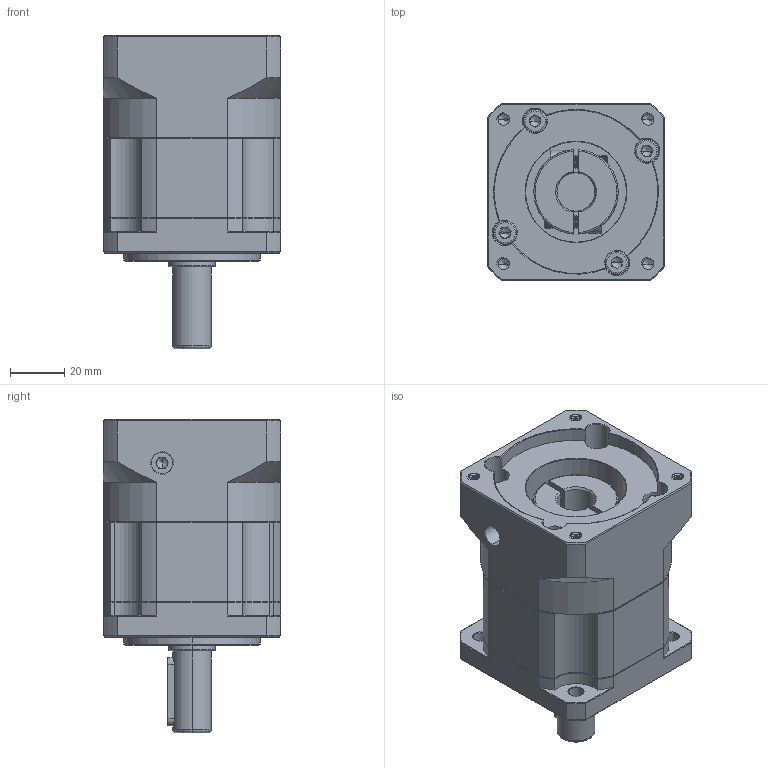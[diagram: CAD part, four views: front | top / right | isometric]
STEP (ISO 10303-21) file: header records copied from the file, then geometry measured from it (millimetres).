
FILE_DESCRIPTION (( 'STEP AP214' ), '1' );
FILE_NAME ('ZB060-D14-L1-P2-14-60-75-M5.step', '2023-08-16T06:59:51', ( '' ), ( '' ), 'SwSTEP 2.0', 'SolidWorks 2016', '' );
FILE_SCHEMA (( 'AUTOMOTIVE_DESIGN' ));
Length unit declared in the file: millimetre
Products named in the file (1): ZB060-D14-L1-P2-14-60-75-M5
Bounding box: 65 x 65 x 115 mm (x, y, z)
Volume: 264899.6 mm3; surface area: 54365.6 mm2
Topology: 6 solids, 6 shells, 2162 faces, 5825 edges, 3747 vertices
Faces by surface type: plane 1059, bspline 397, cylinder 386, cone 284, torus 36
Entity records: 116836 total; most frequent: CARTESIAN_POINT 41871, ORIENTED_EDGE 11590, DIRECTION 9158, EDGE_CURVE 5795, VERTEX_POINT 3747, VECTOR 3650, LINE 3650, AXIS2_PLACEMENT_3D 2754
